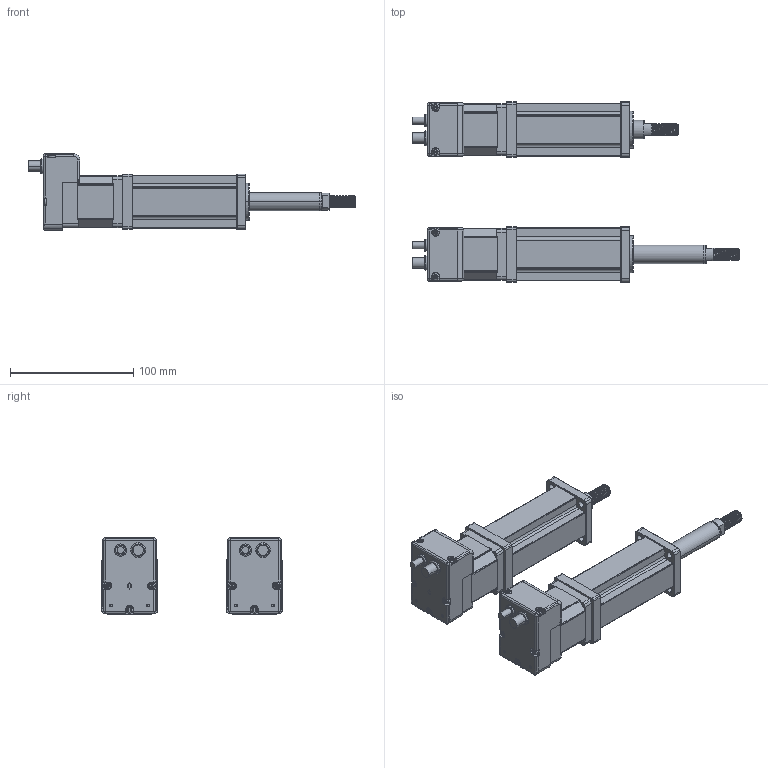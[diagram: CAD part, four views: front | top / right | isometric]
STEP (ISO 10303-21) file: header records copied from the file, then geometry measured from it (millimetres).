
FILE_DESCRIPTION(('STEP AP214'),'1');
FILE_NAME('D:\仕事\図面\SCN5\SCN5-010S\tmp0.STEP',' ',(' '),(' '),'XStep 1.0',' ',' ');
FILE_SCHEMA(('automotive_design'));
Length unit declared in the file: millimetre
Bounding box: 266 x 146.36 x 62 mm (x, y, z)
Volume: 604093.5 mm3; surface area: 127613.1 mm2
Topology: 41 solids, 41 shells, 1317 faces, 3390 edges, 2158 vertices
Faces by surface type: cylinder 698, plane 421, torus 152, bspline 30, sphere 12, cone 4
Entity records: 127203 total; most frequent: CARTESIAN_POINT 82908, DIRECTION 7320, ORIENTED_EDGE 6756, EDGE_CURVE 3378, AXIS2_PLACEMENT_3D 2829, VERTEX_POINT 2158, LINE 1662, VECTOR 1662
